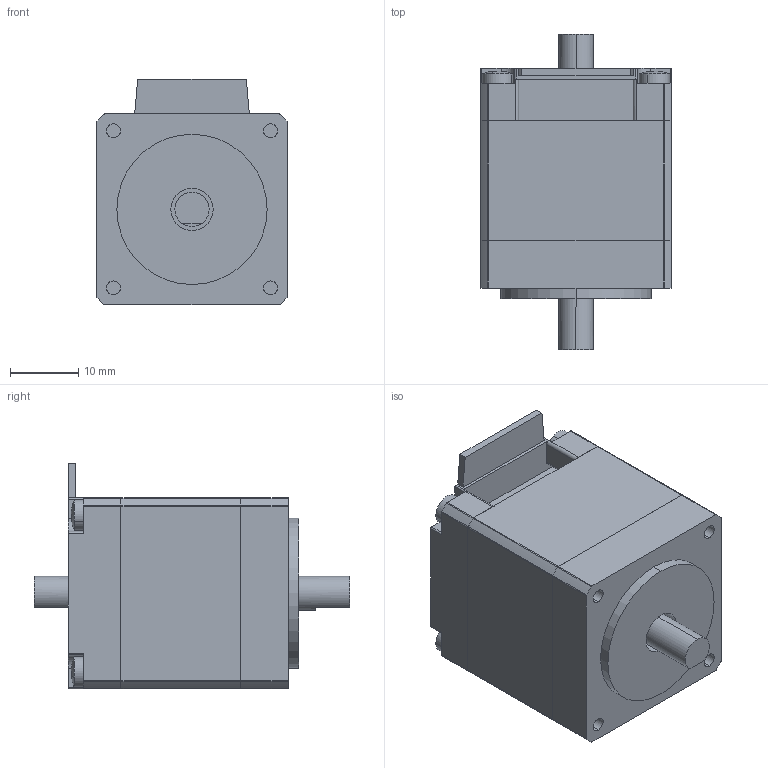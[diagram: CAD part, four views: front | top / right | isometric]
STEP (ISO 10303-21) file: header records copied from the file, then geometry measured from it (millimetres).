
FILE_DESCRIPTION (( 'STEP AP203' ), '1' );
FILE_NAME ('28CM005-DS V3.0.STEP', '2026-09-09T02:18:25', ( 'YOS' ), ( 'MS' ), 'SwSTEP 2.0', 'SolidWorks 2023', '' );
FILE_SCHEMA (( 'CONFIG_CONTROL_DESIGN' ));
Length unit declared in the file: millimetre
Products named in the file (5): 28五相定子-H17.5; M2.5X27十字槽盘头螺丝_GB_CROSS_SCREWS_TYPE3 M2.5X20-20-S; 前端盖（出轴L7.5）; 28CM005-DS V3.0; 后端盖（出轴L5）
Assembly tree (7 placements, depth 2):
  28CM005-DS V3.0
    28五相定子-H17.5
    M2.5X27十字槽盘头螺丝_GB_CROSS_SCREWS_TYPE3 M2.5X20-20-S  x4
    后端盖（出轴L5）
    前端盖（出轴L7.5）
Bounding box: 27.96 x 46.2 x 33.06 mm (x, y, z)
Volume: 24876.4 mm3; surface area: 11548.6 mm2
Topology: 9 solids, 9 shells, 1853 faces, 3874 edges, 2044 vertices
Faces by surface type: cone 1080, cylinder 654, plane 111, sphere 8
Entity records: 16021 total; most frequent: DIRECTION 3006, CARTESIAN_POINT 2572, ORIENTED_EDGE 2504, EDGE_CURVE 1252, AXIS2_PLACEMENT_3D 1190, VERTEX_POINT 700, VECTOR 626, LINE 626
